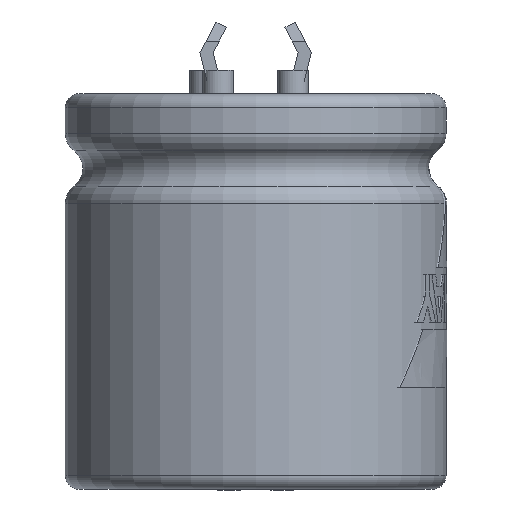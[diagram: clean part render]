
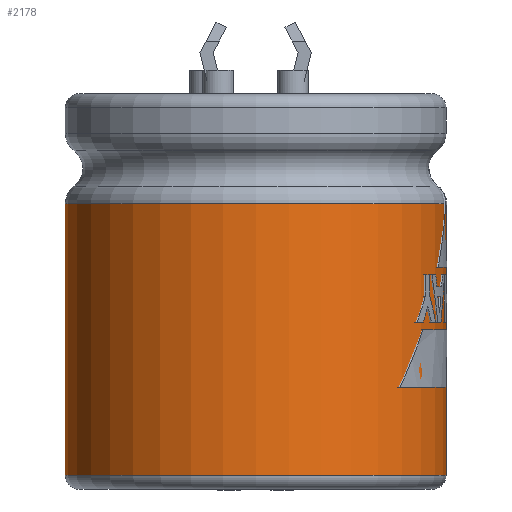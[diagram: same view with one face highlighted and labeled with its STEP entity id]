
A CAD part, left-side view. The second image highlights one B-rep face of the part: STEP entity #2178.
In plain terms, the highlighted cylindrical face has radius 13 mm (diameter 26 mm), a full revolution.
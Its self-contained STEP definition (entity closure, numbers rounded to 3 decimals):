
#2110 = TOROIDAL_SURFACE('',#2111,11.5,1.5);
#2111 = AXIS2_PLACEMENT_3D('',#2112,#2113,#2114);
#2112 = CARTESIAN_POINT('',(0.,0.,-6.55));
#2113 = DIRECTION('',(0.,0.,1.));
#2114 = DIRECTION('',(1.,0.,0.));
#2126 = EDGE_CURVE('',#2127,#2127,#2129,.T.);
#2127 = VERTEX_POINT('',#2128);
#2128 = CARTESIAN_POINT('',(13.,0.,
    -6.55));
#2129 = SURFACE_CURVE('',#2130,(#2135,#2142),.PCURVE_S1.);
#2130 = CIRCLE('',#2131,13.);
#2131 = AXIS2_PLACEMENT_3D('',#2132,#2133,#2134);
#2132 = CARTESIAN_POINT('',(0.,0.,-6.55));
#2133 = DIRECTION('',(0.,0.,1.));
#2134 = DIRECTION('',(1.,0.,0.));
#2135 = PCURVE('',#2110,#2136);
#2136 = DEFINITIONAL_REPRESENTATION('',(#2137),#2141);
#2137 = LINE('',#2138,#2139);
#2138 = CARTESIAN_POINT('',(0.,0.));
#2139 = VECTOR('',#2140,1.);
#2140 = DIRECTION('',(1.,0.));
#2141 = ( GEOMETRIC_REPRESENTATION_CONTEXT(2) 
PARAMETRIC_REPRESENTATION_CONTEXT() REPRESENTATION_CONTEXT('2D SPACE',''
  ) );
#2142 = PCURVE('',#2143,#2148);
#2143 = CYLINDRICAL_SURFACE('',#2144,13.);
#2144 = AXIS2_PLACEMENT_3D('',#2145,#2146,#2147);
#2145 = CARTESIAN_POINT('',(0.,0.,-25.1));
#2146 = DIRECTION('',(0.,0.,1.));
#2147 = DIRECTION('',(1.,0.,0.));
#2148 = DEFINITIONAL_REPRESENTATION('',(#2149),#2153);
#2149 = LINE('',#2150,#2151);
#2150 = CARTESIAN_POINT('',(0.,18.55));
#2151 = VECTOR('',#2152,1.);
#2152 = DIRECTION('',(1.,0.));
#2153 = ( GEOMETRIC_REPRESENTATION_CONTEXT(2) 
PARAMETRIC_REPRESENTATION_CONTEXT() REPRESENTATION_CONTEXT('2D SPACE',''
  ) );
#2178 = ADVANCED_FACE('',(#2179),#2143,.T.);
#2179 = FACE_BOUND('',#2180,.T.);
#2180 = EDGE_LOOP('',(#2181,#2210,#2231,#2232));
#2181 = ORIENTED_EDGE('',*,*,#2182,.T.);
#2182 = EDGE_CURVE('',#2183,#2183,#2185,.T.);
#2183 = VERTEX_POINT('',#2184);
#2184 = CARTESIAN_POINT('',(13.,0.,-25.1));
#2185 = SURFACE_CURVE('',#2186,(#2191,#2198),.PCURVE_S1.);
#2186 = CIRCLE('',#2187,13.);
#2187 = AXIS2_PLACEMENT_3D('',#2188,#2189,#2190);
#2188 = CARTESIAN_POINT('',(0.,0.,-25.1));
#2189 = DIRECTION('',(0.,0.,1.));
#2190 = DIRECTION('',(1.,0.,0.));
#2191 = PCURVE('',#2143,#2192);
#2192 = DEFINITIONAL_REPRESENTATION('',(#2193),#2197);
#2193 = LINE('',#2194,#2195);
#2194 = CARTESIAN_POINT('',(0.,0.));
#2195 = VECTOR('',#2196,1.);
#2196 = DIRECTION('',(1.,0.));
#2197 = ( GEOMETRIC_REPRESENTATION_CONTEXT(2) 
PARAMETRIC_REPRESENTATION_CONTEXT() REPRESENTATION_CONTEXT('2D SPACE',''
  ) );
#2198 = PCURVE('',#2199,#2204);
#2199 = TOROIDAL_SURFACE('',#2200,12.05,0.95);
#2200 = AXIS2_PLACEMENT_3D('',#2201,#2202,#2203);
#2201 = CARTESIAN_POINT('',(0.,0.,-25.1));
#2202 = DIRECTION('',(0.,0.,1.));
#2203 = DIRECTION('',(1.,0.,0.));
#2204 = DEFINITIONAL_REPRESENTATION('',(#2205),#2209);
#2205 = LINE('',#2206,#2207);
#2206 = CARTESIAN_POINT('',(0.,6.283));
#2207 = VECTOR('',#2208,1.);
#2208 = DIRECTION('',(1.,0.));
#2209 = ( GEOMETRIC_REPRESENTATION_CONTEXT(2) 
PARAMETRIC_REPRESENTATION_CONTEXT() REPRESENTATION_CONTEXT('2D SPACE',''
  ) );
#2210 = ORIENTED_EDGE('',*,*,#2211,.T.);
#2211 = EDGE_CURVE('',#2183,#2127,#2212,.T.);
#2212 = SEAM_CURVE('',#2213,(#2217,#2224),.PCURVE_S1.);
#2213 = LINE('',#2214,#2215);
#2214 = CARTESIAN_POINT('',(13.,0.,-25.1));
#2215 = VECTOR('',#2216,1.);
#2216 = DIRECTION('',(0.,0.,1.));
#2217 = PCURVE('',#2143,#2218);
#2218 = DEFINITIONAL_REPRESENTATION('',(#2219),#2223);
#2219 = LINE('',#2220,#2221);
#2220 = CARTESIAN_POINT('',(0.,0.));
#2221 = VECTOR('',#2222,1.);
#2222 = DIRECTION('',(0.,1.));
#2223 = ( GEOMETRIC_REPRESENTATION_CONTEXT(2) 
PARAMETRIC_REPRESENTATION_CONTEXT() REPRESENTATION_CONTEXT('2D SPACE',''
  ) );
#2224 = PCURVE('',#2143,#2225);
#2225 = DEFINITIONAL_REPRESENTATION('',(#2226),#2230);
#2226 = LINE('',#2227,#2228);
#2227 = CARTESIAN_POINT('',(6.283,0.));
#2228 = VECTOR('',#2229,1.);
#2229 = DIRECTION('',(0.,1.));
#2230 = ( GEOMETRIC_REPRESENTATION_CONTEXT(2) 
PARAMETRIC_REPRESENTATION_CONTEXT() REPRESENTATION_CONTEXT('2D SPACE',''
  ) );
#2231 = ORIENTED_EDGE('',*,*,#2126,.F.);
#2232 = ORIENTED_EDGE('',*,*,#2211,.F.);
